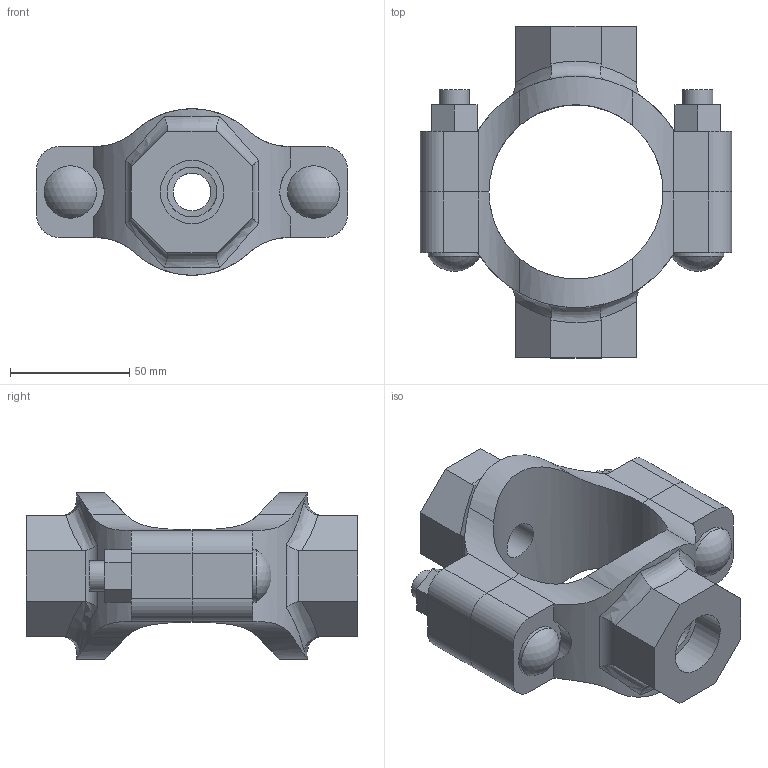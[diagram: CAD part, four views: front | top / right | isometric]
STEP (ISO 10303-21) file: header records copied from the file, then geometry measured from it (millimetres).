
FILE_DESCRIPTION(/* description */ ('VIC MECH-T BRANCH OUTLET CROSS STYLE 920N (THD)','CAx-IF Rec.Pracs.---Representation and Presentation of Product Manufacturing Information (PMI)---4.0---2014-10-13'),/* implementation_level */ '2;1');
FILE_NAME(/* name */ 'C:\Users\Vjadhav\AppData\Roaming\Autodesk\ApplicationPlugins\Back Up\Victaulic_IPS_Mechanical-Cross Outlet_Style 920N (FPT)\Victaulic_IPS_Mechanical-Cross Outlet_02.5x0.5x0.75 (65x15x20).stp',/* time_stamp */ '2020-08-06T18:56:21+05:00',/* author */ ('Vjadhav'),/* organization */ ('Victaulic'),/* preprocessor_version */ 'ST-DEVELOPER v17.2',/* originating_system */ 'Autodesk Inventor 2019',/* authorisation */ '');
FILE_SCHEMA (('AP242_MANAGED_MODEL_BASED_3D_ENGINEERING_MIM_LF { 1 0 10303 442 1 1 4 }'));
Length unit declared in the file: inch
Products named in the file (3): 920NT-02.5x0.5x0.75; 920NT-02.5x0.5; 920NT-02.5x0.75
Assembly tree (2 placements, depth 2):
  920NT-02.5x0.5x0.75
    920NT-02.5x0.5
    920NT-02.5x0.75
Bounding box: 130.56 x 139.19 x 69.84 mm (x, y, z)
Volume: 304686.4 mm3; surface area: 67176 mm2
Topology: 2 solids, 2 shells, 132 faces, 350 edges, 236 vertices
Faces by surface type: plane 68, cylinder 50, bspline 8, torus 4, sphere 2
Full cylindrical faces by diameter (mm): 12.7 x4, 15.799 x1, 20.93 x1, 21.336 x1, 21.982 x2, 26.67 x1
Entity records: 5054 total; most frequent: CARTESIAN_POINT 1541, ORIENTED_EDGE 700, DIRECTION 648, EDGE_CURVE 350, VERTEX_POINT 236, AXIS2_PLACEMENT_3D 231, LINE 186, VECTOR 186
